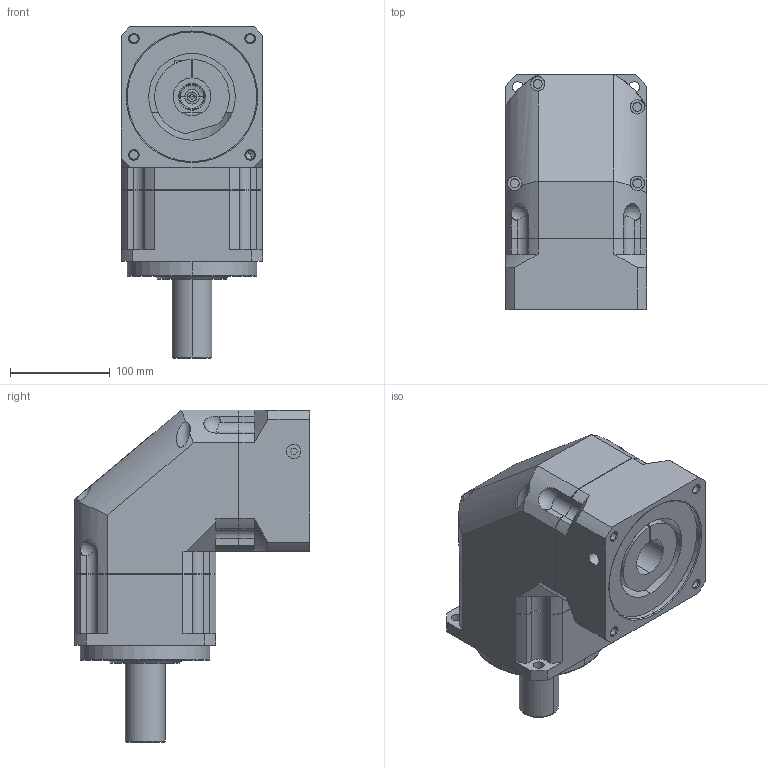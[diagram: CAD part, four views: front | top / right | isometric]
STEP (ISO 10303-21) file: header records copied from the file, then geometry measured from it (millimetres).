
FILE_DESCRIPTION((''),'2;1');
FILE_NAME('ABR1421-P0401500202_ASM','2016-04-13T',('d00435'),(''),'PRO/ENGINEER BY PARAMETRIC TECHNOLOGY CORPORATION, 2008410','PRO/ENGINEER BY PARAMETRIC TECHNOLOGY CORPORATION, 2008410','');
FILE_SCHEMA(('CONFIG_CONTROL_DESIGN'));
Length unit declared in the file: millimetre
Products named in the file (4): AB1421; PD050001; P0401500202; ABR1421-P0401500202_ASM
Assembly tree (3 placements, depth 2):
  ABR1421-P0401500202_ASM
    AB1421
    PD050001
    P0401500202
Bounding box: 142 x 236 x 333 mm (x, y, z)
Volume: 4189868.9 mm3; surface area: 398169.9 mm2
Topology: 4 solids, 15 shells, 433 faces, 1048 edges, 646 vertices
Faces by surface type: cylinder 165, plane 156, cone 88, torus 20, sphere 4
Entity records: 13153 total; most frequent: CARTESIAN_POINT 2709, DIRECTION 2331, ORIENTED_EDGE 2020, EDGE_CURVE 1034, AXIS2_PLACEMENT_3D 926, VERTEX_POINT 646, EDGE_LOOP 492, CIRCLE 480
